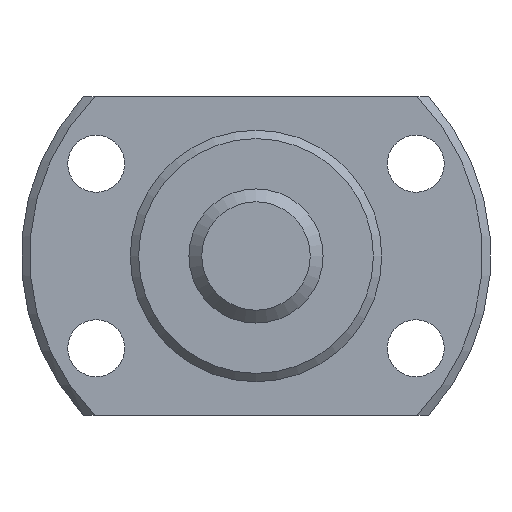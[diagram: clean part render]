
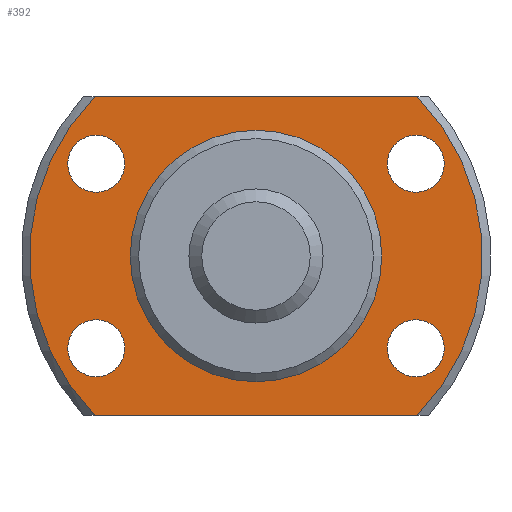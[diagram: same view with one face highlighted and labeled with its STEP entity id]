
A CAD part, left-side view. The second image highlights one B-rep face of the part: STEP entity #392.
In plain terms, the highlighted planar face has unit normal (-1, 0, 0) as drawn and (1, 0, 0) by its records, which use the part's own axes.
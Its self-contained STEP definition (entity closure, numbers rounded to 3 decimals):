
#22=LINE('',#695,#30);
#23=LINE('',#697,#31);
#30=VECTOR('',#570,1000.);
#31=VECTOR('',#571,1000.);
#114=ORIENTED_EDGE('',*,*,#189,.T.);
#115=ORIENTED_EDGE('',*,*,#167,.T.);
#116=ORIENTED_EDGE('',*,*,#190,.T.);
#117=ORIENTED_EDGE('',*,*,#191,.T.);
#118=ORIENTED_EDGE('',*,*,#192,.F.);
#119=ORIENTED_EDGE('',*,*,#193,.F.);
#120=ORIENTED_EDGE('',*,*,#194,.F.);
#121=ORIENTED_EDGE('',*,*,#195,.F.);
#122=ORIENTED_EDGE('',*,*,#188,.F.);
#167=EDGE_CURVE('',#209,#211,#245,.T.);
#188=EDGE_CURVE('',#230,#230,#260,.T.);
#189=EDGE_CURVE('',#231,#209,#22,.T.);
#190=EDGE_CURVE('',#211,#232,#23,.T.);
#191=EDGE_CURVE('',#232,#231,#261,.T.);
#192=EDGE_CURVE('',#233,#233,#262,.T.);
#193=EDGE_CURVE('',#234,#234,#263,.T.);
#194=EDGE_CURVE('',#235,#235,#264,.T.);
#195=EDGE_CURVE('',#236,#236,#265,.T.);
#209=VERTEX_POINT('',#630);
#211=VERTEX_POINT('',#637);
#230=VERTEX_POINT('',#693);
#231=VERTEX_POINT('',#696);
#232=VERTEX_POINT('',#698);
#233=VERTEX_POINT('',#701);
#234=VERTEX_POINT('',#703);
#235=VERTEX_POINT('',#705);
#236=VERTEX_POINT('',#707);
#245=CIRCLE('',#442,13.5);
#260=CIRCLE('',#466,7.3);
#261=CIRCLE('',#468,13.5);
#262=CIRCLE('',#469,1.7);
#263=CIRCLE('',#470,1.7);
#264=CIRCLE('',#471,1.7);
#265=CIRCLE('',#472,1.7);
#298=EDGE_LOOP('',(#114,#115,#116,#117));
#299=EDGE_LOOP('',(#118));
#300=EDGE_LOOP('',(#119));
#301=EDGE_LOOP('',(#120));
#302=EDGE_LOOP('',(#121));
#303=EDGE_LOOP('',(#122));
#348=FACE_BOUND('',#298,.T.);
#349=FACE_BOUND('',#299,.T.);
#350=FACE_BOUND('',#300,.T.);
#351=FACE_BOUND('',#301,.T.);
#352=FACE_BOUND('',#302,.T.);
#353=FACE_BOUND('',#303,.T.);
#373=PLANE('',#467);
#392=ADVANCED_FACE('',(#348,#349,#350,#351,#352,#353),#373,.T.);
#442=AXIS2_PLACEMENT_3D('',#638,#514,#515);
#466=AXIS2_PLACEMENT_3D('',#692,#566,#567);
#467=AXIS2_PLACEMENT_3D('',#694,#568,#569);
#468=AXIS2_PLACEMENT_3D('',#699,#572,#573);
#469=AXIS2_PLACEMENT_3D('',#700,#574,#575);
#470=AXIS2_PLACEMENT_3D('',#702,#576,#577);
#471=AXIS2_PLACEMENT_3D('',#704,#578,#579);
#472=AXIS2_PLACEMENT_3D('',#706,#580,#581);
#514=DIRECTION('',(1.,0.,0.));
#515=DIRECTION('',(0.,0.,-1.));
#566=DIRECTION('',(1.,0.,0.));
#567=DIRECTION('',(0.,0.,-1.));
#568=DIRECTION('',(1.,0.,0.));
#569=DIRECTION('',(0.,0.,-1.));
#570=DIRECTION('',(0.,-1.,0.));
#571=DIRECTION('',(0.,1.,0.));
#572=DIRECTION('',(1.,0.,0.));
#573=DIRECTION('',(0.,0.,-1.));
#574=DIRECTION('',(1.,0.,0.));
#575=DIRECTION('',(0.,0.,-1.));
#576=DIRECTION('',(1.,0.,0.));
#577=DIRECTION('',(0.,0.,-1.));
#578=DIRECTION('',(1.,0.,0.));
#579=DIRECTION('',(0.,0.,-1.));
#580=DIRECTION('',(1.,0.,0.));
#581=DIRECTION('',(0.,0.,-1.));
#630=CARTESIAN_POINT('',(4.,-9.592,9.5));
#637=CARTESIAN_POINT('',(4.,-9.592,-9.5));
#638=CARTESIAN_POINT('',(4.,0.,0.));
#692=CARTESIAN_POINT('',(4.,0.,0.));
#693=CARTESIAN_POINT('',(4.,0.,-7.3));
#694=CARTESIAN_POINT('',(4.,7.3,0.));
#695=CARTESIAN_POINT('',(4.,14.,9.5));
#696=CARTESIAN_POINT('',(4.,9.592,9.5));
#697=CARTESIAN_POINT('',(4.,-14.,-9.5));
#698=CARTESIAN_POINT('',(4.,9.592,-9.5));
#699=CARTESIAN_POINT('',(4.,0.,0.));
#700=CARTESIAN_POINT('',(4.,9.526,5.5));
#701=CARTESIAN_POINT('',(4.,9.526,3.8));
#702=CARTESIAN_POINT('',(4.,-9.526,5.5));
#703=CARTESIAN_POINT('',(4.,-9.526,3.8));
#704=CARTESIAN_POINT('',(4.,-9.526,-5.5));
#705=CARTESIAN_POINT('',(4.,-9.526,-7.2));
#706=CARTESIAN_POINT('',(4.,9.526,-5.5));
#707=CARTESIAN_POINT('',(4.,9.526,-7.2));
